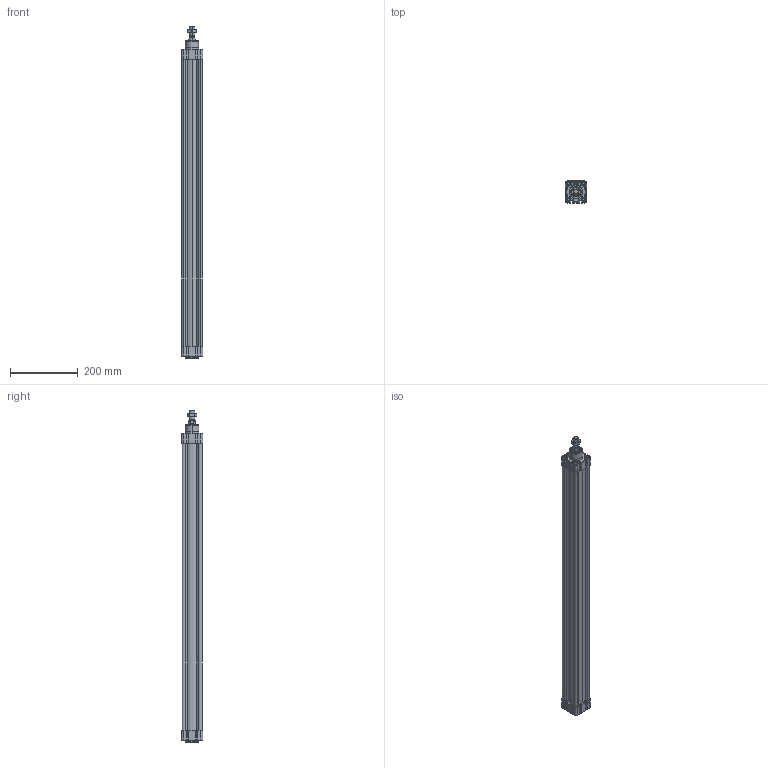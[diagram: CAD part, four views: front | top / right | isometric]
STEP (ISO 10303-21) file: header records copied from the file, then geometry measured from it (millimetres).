
FILE_DESCRIPTION (( 'STEP AP214' ), '1' );
FILE_NAME ('E11M20500800.STEP', '2021-10-26T13:56:54', ( '' ), ( '' ), 'SwSTEP 2.0', 'SolidWorks 2016', '' );
FILE_SCHEMA (( 'AUTOMOTIVE_DESIGN' ));
Length unit declared in the file: millimetre
Products named in the file (7): 000.532.7_000.532.0800; TP Ø50 ISO 15552 WEB; 21.752.0; Pistone Ø50 ISO 15552; TA Ø50 ISO 15552 WEB; E11M20500800; 21.C01.0000_21.C01.0800
Assembly tree (6 placements, depth 2):
  E11M20500800
    TP Ø50 ISO 15552 WEB
    TA Ø50 ISO 15552 WEB
    Pistone Ø50 ISO 15552
    21.C01.0000_21.C01.0800
    21.752.0
    000.532.7_000.532.0800
Bounding box: 63.95 x 63.97 x 980 mm (x, y, z)
Volume: 1204360.5 mm3; surface area: 674570.4 mm2
Topology: 17 solids, 17 shells, 1503 faces, 3781 edges, 2374 vertices
Faces by surface type: plane 624, cylinder 466, cone 306, torus 107
Entity records: 59405 total; most frequent: DIRECTION 8258, CARTESIAN_POINT 8009, ORIENTED_EDGE 7538, EDGE_CURVE 3769, AXIS2_PLACEMENT_3D 3019, VERTEX_POINT 2374, VECTOR 2220, LINE 2220
